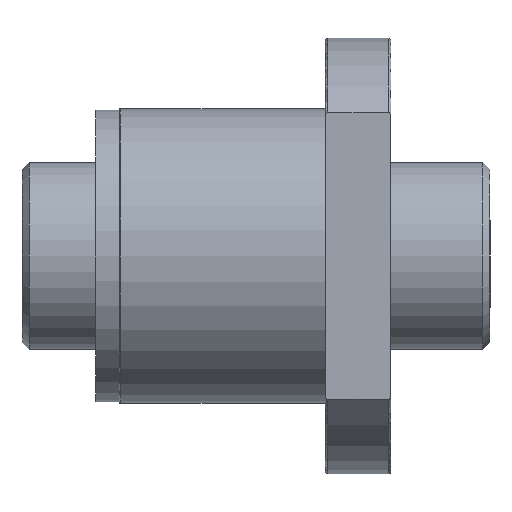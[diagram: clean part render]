
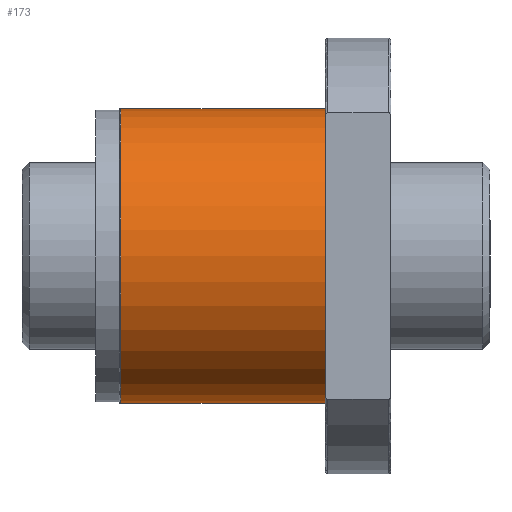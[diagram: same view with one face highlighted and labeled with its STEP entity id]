
A CAD part, front view. The second image highlights one B-rep face of the part: STEP entity #173.
In plain terms, the highlighted cylindrical face has radius 31.5 mm (diameter 63 mm), a full revolution.
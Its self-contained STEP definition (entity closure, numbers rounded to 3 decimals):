
#141=CYLINDRICAL_SURFACE('',#693,31.5);
#173=ADVANCED_FACE('',(#255,#256),#141,.T.);
#255=FACE_BOUND('',#331,.T.);
#256=FACE_BOUND('',#332,.T.);
#331=EDGE_LOOP('',(#435));
#332=EDGE_LOOP('',(#436));
#435=ORIENTED_EDGE('',*,*,#555,.F.);
#436=ORIENTED_EDGE('',*,*,#584,.T.);
#501=VERTEX_POINT('',#1020);
#525=VERTEX_POINT('',#1150);
#555=EDGE_CURVE('',#501,#501,#606,.T.);
#584=EDGE_CURVE('',#525,#525,#627,.T.);
#606=CIRCLE('',#666,31.5);
#627=CIRCLE('',#692,31.5);
#666=AXIS2_PLACEMENT_3D('',#1019,#785,#786);
#692=AXIS2_PLACEMENT_3D('',#1149,#841,#842);
#693=AXIS2_PLACEMENT_3D('',#1151,#843,#844);
#785=DIRECTION('',(1.,0.,0.));
#786=DIRECTION('',(0.,1.,0.));
#841=DIRECTION('',(1.,0.,0.));
#842=DIRECTION('',(0.,1.,0.));
#843=DIRECTION('',(1.,0.,0.));
#844=DIRECTION('',(0.,1.,0.));
#1019=CARTESIAN_POINT('',(-35.19,0.,0.));
#1020=CARTESIAN_POINT('',(-35.19,31.5,0.));
#1149=CARTESIAN_POINT('',(-78.89,0.,0.));
#1150=CARTESIAN_POINT('',(-78.89,31.5,0.));
#1151=CARTESIAN_POINT('',(-100.,0.,0.));
